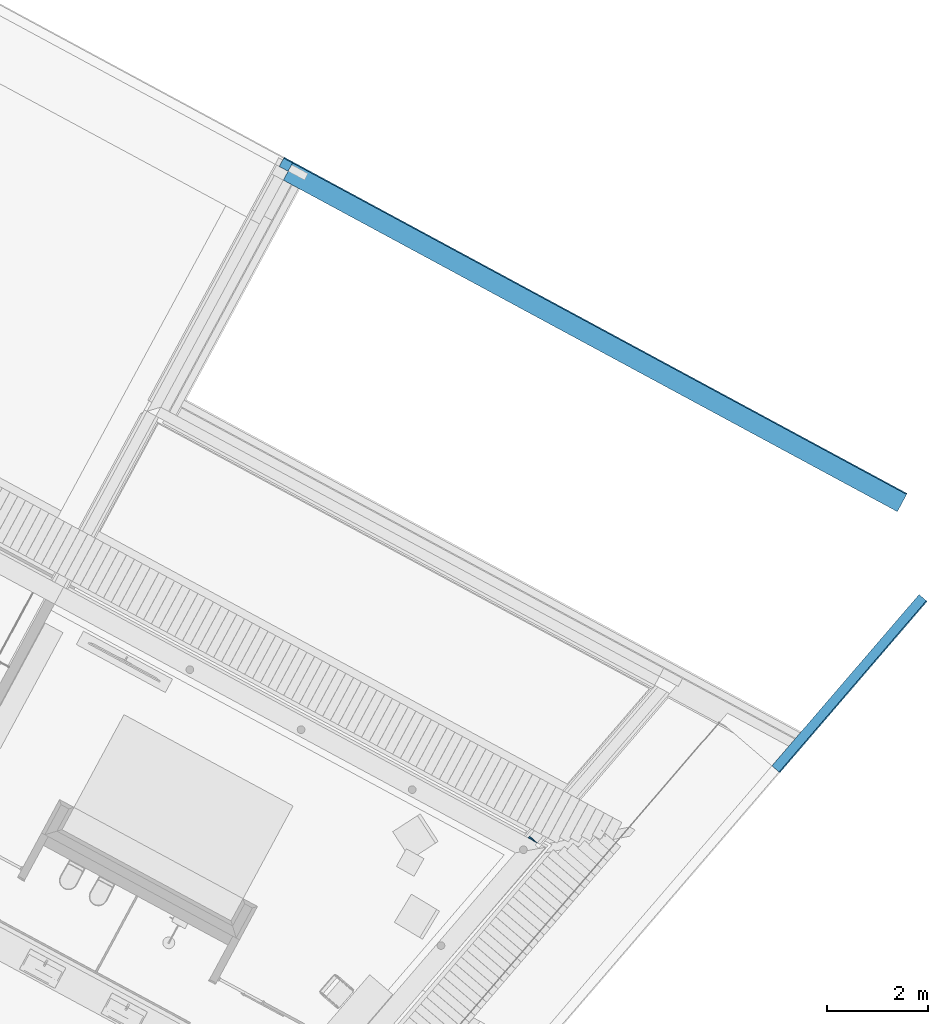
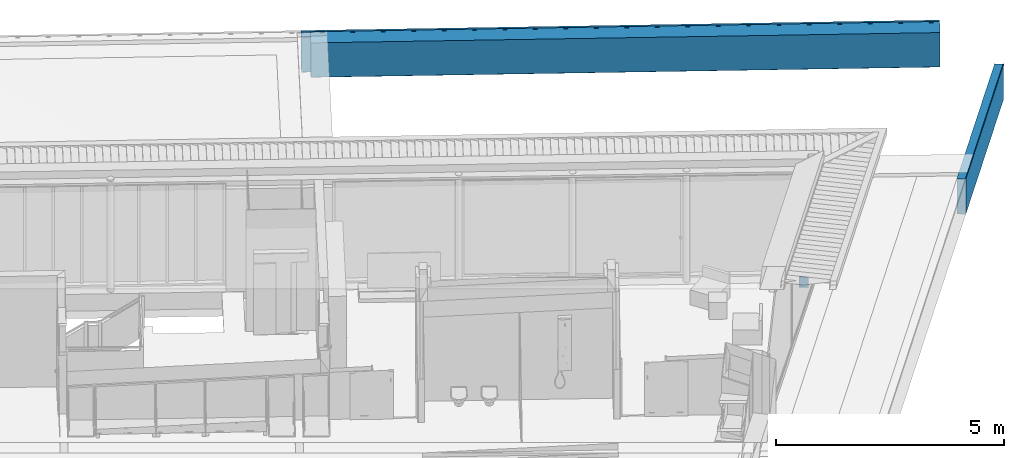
# One storey, part 2 of 41: 4 slabs.
"""IFC2X3 building model written with IfcOpenShell, lengths in metres."""

import ifcopenshell
import ifcopenshell.guid

model = None  # the IFC model being written
_history = None  # IfcOwnerHistory: only IFC2X3 demands one
_inside = {}  # id of a spatial element -> (the spatial element, [elements in it])
_under = {}  # id of a project, library or spatial element -> (it, [spatial elements below it])
_declared = {}  # id of a project -> (the project, [libraries it declares])
_typed = {}  # id of a type object -> (the type object, [elements of that type])
_made_of = {}  # id of a material, layer set ... -> (it, [elements and type objects made of it])


def new_model(schema):
    """Start an empty IFC model of exactly this schema.

    Asked for "IFC4X3", IfcOpenShell would pick the latest addendum, in which some entities
    have other attributes; the version numbers below select the first issue.
    IFC2X3 requires an IfcOwnerHistory on every rooted entity: one is made here for all.
    """
    global model, _history
    if schema == "IFC4X3":
        model = ifcopenshell.file(schema_version=(4, 3, 0, 0))
    else:
        model = ifcopenshell.file(schema=schema)
    _inside.clear()
    _under.clear()
    _declared.clear()
    _typed.clear()
    _made_of.clear()
    _history = None
    if model.schema == "IFC2X3":
        org = make("IfcOrganization", Name="unknown")
        user = make(
            "IfcPersonAndOrganization",
            ThePerson=make("IfcPerson", FamilyName="unknown"),
            TheOrganization=org,
        )
        app = make(
            "IfcApplication",
            ApplicationDeveloper=org,
            Version="unknown",
            ApplicationFullName="unknown",
            ApplicationIdentifier="unknown",
        )
        _history = make(
            "IfcOwnerHistory",
            OwningUser=user,
            OwningApplication=app,
            ChangeAction="ADDED",
            CreationDate=0,
        )
    return model


def make(cls, **values):
    """One entity of the class cls with the attributes given. An attribute that is None is left unset."""
    return model.create_entity(
        cls, **{name: value for name, value in values.items() if value is not None}
    )


def entity(cls, *values):
    """Any entity or typed value of the class cls, its attributes in the order of the schema. None: left unset."""
    e = model.create_entity(cls)
    for i, value in enumerate(values):
        if value is not None:
            e[i] = value
    return e


def rooted(cls, **values):
    """An entity with a GlobalId (a new one), such as an element, a storey or a relation."""
    return make(cls, GlobalId=ifcopenshell.guid.new(), OwnerHistory=_history, **values)


def si_unit(unit_type, name, prefix=None):
    """IfcSIUnit, for example si_unit("LENGTHUNIT", "METRE", prefix="MILLI")."""
    return make("IfcSIUnit", UnitType=unit_type, Prefix=prefix, Name=name)


def converted_unit(unit_type, name, factor, base, dimensions=None, offset=None):
    """IfcConversionBasedUnit, such as the inch: factor (a typed value) times the base unit."""
    return make(
        "IfcConversionBasedUnit"
        if offset is None
        else "IfcConversionBasedUnitWithOffset",
        ConversionOffset=offset,
        Dimensions=None
        if dimensions is None
        else entity("IfcDimensionalExponents", *dimensions),
        UnitType=unit_type,
        Name=name,
        ConversionFactor=make(
            "IfcMeasureWithUnit", ValueComponent=factor, UnitComponent=base
        ),
    )


def derived_unit(unit_type, elements):
    """IfcDerivedUnit: a product of units, each with its exponent."""
    return make(
        "IfcDerivedUnit",
        Elements=[
            make("IfcDerivedUnitElement", Unit=unit, Exponent=power)
            for unit, power in elements
        ],
        UnitType=unit_type,
    )


def money_unit(currency):
    """IfcMonetaryUnit."""
    return make("IfcMonetaryUnit", Currency=currency)


def assignment(units):
    """IfcUnitAssignment: the units of a project."""
    return None if units is None else make("IfcUnitAssignment", Units=units)


def point(xyz):
    """IfcCartesianPoint."""
    return None if xyz is None else make("IfcCartesianPoint", Coordinates=xyz)


def direction(xyz):
    """IfcDirection."""
    return None if xyz is None else make("IfcDirection", DirectionRatios=xyz)


def frame(location, z_axis=None, x_axis=None):
    """IfcAxis2Placement3D, a coordinate frame: its origin and axes. An axis left out is left unset."""
    return make(
        "IfcAxis2Placement3D",
        Location=point(location),
        Axis=direction(z_axis),
        RefDirection=direction(x_axis),
    )


def origin_with_axes():
    """The frame at (0, 0, 0) with the z axis (0, 0, 1) and the x axis (1, 0, 0) written out."""
    return frame((0.0, 0.0, 0.0), z_axis=(0.0, 0.0, 1.0), x_axis=(1.0, 0.0, 0.0))


def place(relative_to, where):
    """IfcLocalPlacement: puts the frame where relative to a parent placement (None: the world)."""
    return make(
        "IfcLocalPlacement", PlacementRelTo=relative_to, RelativePlacement=where
    )


def context(
    kind, dimensions, precision=None, world=None, true_north=None, identifier=None
):
    """IfcGeometricRepresentationContext, for example the 3D "Model" context."""
    return make(
        "IfcGeometricRepresentationContext",
        ContextIdentifier=identifier,
        ContextType=kind,
        CoordinateSpaceDimension=dimensions,
        Precision=precision,
        WorldCoordinateSystem=world,
        TrueNorth=true_north,
    )


def subcontext(parent, identifier, kind, view, scale=None):
    """IfcGeometricRepresentationSubContext, for example "Body" below "Model"."""
    return make(
        "IfcGeometricRepresentationSubContext",
        ContextIdentifier=identifier,
        ContextType=kind,
        ParentContext=parent,
        TargetScale=scale,
        TargetView=view,
    )


def project(units=None, contexts=None):
    """IfcProject with its units and contexts."""
    return rooted(
        "IfcProject",
        Name="project",
        RepresentationContexts=contexts,
        UnitsInContext=assignment(units),
    )


def spatial(cls, under=None, at=None, **own):
    """A site, building, storey or space (cls), placed at a placement, below another one or the project."""
    s = rooted(cls, ObjectPlacement=at, **own)
    if under is not None:
        _under.setdefault(under.id(), (under, []))[1].append(s)
    return s


def polyline(points):
    """IfcPolyline through the points."""
    return make("IfcPolyline", Points=[point(p) for p in points])


def outline(outer, holes=None, kind="AREA"):
    """IfcArbitraryClosedProfileDef: a profile drawn as a closed curve; with holes, ...WithVoids."""
    if holes is None:
        return make("IfcArbitraryClosedProfileDef", ProfileType=kind, OuterCurve=outer)
    return make(
        "IfcArbitraryProfileDefWithVoids",
        ProfileType=kind,
        OuterCurve=outer,
        InnerCurves=holes,
    )


def composite_profile(profiles, kind="AREA"):
    """IfcCompositeProfileDef: several profiles as one."""
    return make("IfcCompositeProfileDef", ProfileType=kind, Profiles=profiles)


def extrude(swept, where, along, depth):
    """IfcExtrudedAreaSolid: the profile swept, set in the frame where, extruded along a direction by depth."""
    return make(
        "IfcExtrudedAreaSolid",
        SweptArea=swept,
        Position=where,
        ExtrudedDirection=direction(along),
        Depth=depth,
    )


def shape(context_of_items, identifier, shape_type, items):
    """IfcShapeRepresentation: the items that make up one representation, for example the "Body"."""
    return make(
        "IfcShapeRepresentation",
        ContextOfItems=context_of_items,
        RepresentationIdentifier=identifier,
        RepresentationType=shape_type,
        Items=items,
    )


def material(Name=None, Category=None):
    """IfcMaterial."""
    return make("IfcMaterial", Name=Name, Category=Category)


def material_list(materials):
    """IfcMaterialList."""
    return make("IfcMaterialList", Materials=materials)


def made_of(thing, what):
    """Note that an element or type object is made of a material, layer set ...; save() writes the relation."""
    if what is not None:
        _made_of.setdefault(what.id(), (what, []))[1].append(thing)
    return thing


def type_object(cls, material=None, **own):
    """A type object (cls), such as IfcWallType, which elements share."""
    return made_of(rooted(cls, **own), material)


def element(
    cls,
    number,
    at=None,
    inside=None,
    cuts=None,
    type_object=None,
    material=None,
    context=None,
    identifier="Body",
    shape_type=None,
    held_by="IfcProductDefinitionShape",
    body=None,
    shapes=None,
    **own,
):
    """One element of the class cls, such as IfcWall. Its Tag is "e" and its number.

    at: its placement. inside: the storey or other place that contains it. cuts: it is an
    opening in that element (IfcRelVoidsElement). A single representation is given by context,
    identifier, shape_type and body (its items); several are given by shapes. held_by: the class
    of the entity that holds the representations. save() writes the other relations.
    """
    e = rooted(cls, Tag="e%d" % number, ObjectPlacement=at, **own)
    if body is not None:
        shapes = [shape(context, identifier, shape_type, body)]
    if shapes is not None:
        e.Representation = make(held_by, Representations=shapes)
    if inside is not None:
        _inside.setdefault(inside.id(), (inside, []))[1].append(e)
    if cuts is not None:
        rooted(
            "IfcRelVoidsElement", RelatingBuildingElement=cuts, RelatedOpeningElement=e
        )
    if type_object is not None:
        _typed.setdefault(type_object.id(), (type_object, []))[1].append(e)
    return made_of(e, material)


def aggregate(whole, parts):
    """IfcRelAggregates: a whole, such as a stair, and the parts it consists of."""
    return rooted("IfcRelAggregates", RelatingObject=whole, RelatedObjects=parts)


def save(model, path):
    """Write the relations noted so far, then the file.

    IfcRelAggregates (storeys below a building ...), IfcRelContainedInSpatialStructure (elements
    in a storey), IfcRelDefinesByType, IfcRelAssociatesMaterial and IfcRelDeclares: one each for
    every whole, place, type object, material and project.
    """
    for whole, parts in _under.values():
        aggregate(whole, parts)
    for where, things in _inside.values():
        rooted(
            "IfcRelContainedInSpatialStructure",
            RelatedElements=things,
            RelatingStructure=where,
        )
    for kind, things in _typed.values():
        rooted("IfcRelDefinesByType", RelatedObjects=things, RelatingType=kind)
    for what, things in _made_of.values():
        rooted("IfcRelAssociatesMaterial", RelatedObjects=things, RelatingMaterial=what)
    for by, libraries in _declared.values():
        rooted("IfcRelDeclares", RelatingContext=by, RelatedDefinitions=libraries)
    model.write(path)


model = new_model("IFC2X3")

# Units and contexts
model_context = context("Model", 3, precision=1e-05, world=origin_with_axes(), true_north=direction((0.0, 1.0)))
body_context = subcontext(model_context, "Body", "Model", "MODEL_VIEW")
ifc_project = project(units=[si_unit("LENGTHUNIT", "METRE"), si_unit("AREAUNIT", "SQUARE_METRE"), si_unit("VOLUMEUNIT", "CUBIC_METRE"), converted_unit("PLANEANGLEUNIT", "DEGREE", entity("IfcPlaneAngleMeasure", 0.0174532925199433), si_unit("PLANEANGLEUNIT", "RADIAN"), dimensions=[0, 0, 0, 0, 0, 0, 0]), money_unit("EUR"), converted_unit("TIMEUNIT", "Year", entity("IfcTimeMeasure", 31556926.0), si_unit("TIMEUNIT", "SECOND"), dimensions=[0, 0, 1, 0, 0, 0, 0]), si_unit("MASSUNIT", "GRAM", prefix="KILO"), si_unit("THERMODYNAMICTEMPERATUREUNIT", "DEGREE_CELSIUS"), si_unit("LUMINOUSINTENSITYUNIT", "LUMEN"), si_unit("ENERGYUNIT", "JOULE", prefix="MEGA"), derived_unit("THERMALCONDUCTANCEUNIT", [(si_unit("POWERUNIT", "WATT"), 1), (si_unit("LENGTHUNIT", "METRE"), -1), (si_unit("THERMODYNAMICTEMPERATUREUNIT", "KELVIN"), -1)]), derived_unit("SPECIFICHEATCAPACITYUNIT", [(si_unit("ENERGYUNIT", "JOULE"), 1), (si_unit("MASSUNIT", "GRAM", prefix="KILO"), -1), (si_unit("THERMODYNAMICTEMPERATUREUNIT", "KELVIN"), -1)]), derived_unit("MASSDENSITYUNIT", [(si_unit("MASSUNIT", "GRAM", prefix="KILO"), 1), (si_unit("VOLUMEUNIT", "CUBIC_METRE"), -1)])], contexts=[model_context])

# Site, building, storey
site_placement = place(None, frame((-3.949935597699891, 1.740105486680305, 0.0), z_axis=(0.0, 0.0, 1.0), x_axis=(0.8799804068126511, -0.475009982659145, 0.0)))
site = spatial("IfcSite", under=ifc_project, at=site_placement, Name="Gelände", CompositionType="ELEMENT")
building_placement = place(site_placement, origin_with_axes())
building = spatial("IfcBuilding", under=site, at=building_placement, Name="Gebäude", CompositionType="ELEMENT")
storey_placement = place(building_placement, frame((0.0, 0.0, 4.55), z_axis=(0.0, 0.0, 1.0), x_axis=(1.0, 0.0, 0.0)))
storey = spatial("IfcBuildingStorey", under=building, at=storey_placement, Name="Staffelgeschoss", CompositionType="ELEMENT", Elevation=4.55)

# Slabs
ifc_material_1 = material(Name="_SIWH - Beton, Stahlbeton")
slab_type_1 = type_object("IfcSlabType", Name="_SIWH - Beton, Stahlbeton Polygon", PredefinedType="FLOOR")
slab_1_placement = place(storey_placement, frame((27.81092993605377, 11.0378006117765, -0.3999999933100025), z_axis=(0.0, 0.0, 1.0), x_axis=(1.0, 0.0, 0.0)))
element("IfcSlab", 1, at=slab_1_placement, inside=storey, type_object=slab_type_1, material=ifc_material_1, Name="Wand-026", PredefinedType="FLOOR", context=body_context, shape_type="SweptSolid", body=[
    extrude(outline(polyline([(0.0, 0.0), (0.2047146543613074, 0.0), (0.009320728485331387, 0.04267568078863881), (0.00466036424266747, 0.0213378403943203), (0.0, 0.0)])), origin_with_axes(), (0.0, 0.0, 1.0), 0.2749999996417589),
])
ifc_material_2 = material(Name="_SIWH - Beton, Stahlbeton Fertigteil")
ifc_material_3 = material(Name="_SIWH - Metall, Aluminium")
ifc_material_list = material_list([ifc_material_2, ifc_material_3])
slab_type_2 = type_object("IfcSlabType", Name="_SIWH - Vordach+Arkade3 nur Luftbalken 210 x 980", PredefinedType="FLOOR")
slab_2_placement = place(storey_placement, frame((17.16747696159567, 19.20028216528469, -0.3999999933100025), z_axis=(0.0, 0.0, 1.0), x_axis=(1.0, 0.0, 0.0)))
element("IfcSlab", 2, at=slab_2_placement, inside=storey, type_object=slab_type_2, material=ifc_material_list, Name="Wand-024", PredefinedType="FLOOR", context=body_context, shape_type="SweptSolid", body=[
    extrude(composite_profile([outline(polyline([(1.385000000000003, -0.5700000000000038), (1.385000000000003, 0.3699875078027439), (1.185, 0.3599875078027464), (1.185, -0.5700000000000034), (1.194999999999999, -0.5800000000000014), (1.320000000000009, -0.5800000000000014), (1.335000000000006, -0.5650000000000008), (1.35, -0.5800000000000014), (1.374999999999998, -0.5800000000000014), (1.385000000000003, -0.5700000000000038)])), outline(polyline([(1.333152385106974, 0.3744038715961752), (1.333252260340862, 0.3724063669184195), (1.37404843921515, 0.3744461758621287), (1.393000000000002, 0.3948980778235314), (1.393000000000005, 0.3449999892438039), (1.395000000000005, 0.3449999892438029), (1.395000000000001, 0.3999999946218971), (1.373135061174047, 0.3764030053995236), (1.333152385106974, 0.3744038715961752)]))]), frame((0.0, 0.0, 0.0), z_axis=(1.0, 0.0, 0.0), x_axis=(0.0, 1.0, 0.0)), (0.0, 0.0, 1.0), 0.1999990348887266),
])
slab_3_placement = place(storey_placement, frame((31.17000734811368, 19.20028216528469, -0.3999999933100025), z_axis=(0.0, 0.0, 1.0), x_axis=(-0.213378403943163, -0.9769696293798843, 0.0)))
element("IfcSlab", 3, at=slab_3_placement, inside=storey, type_object=slab_type_2, material=ifc_material_list, Name="Wand-024", PredefinedType="FLOOR", context=body_context, shape_type="SweptSolid", body=[
    extrude(composite_profile([outline(polyline([(1.385000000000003, -0.5700000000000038), (1.385000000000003, 0.3699875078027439), (1.185, 0.3599875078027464), (1.185, -0.5700000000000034), (1.194999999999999, -0.5800000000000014), (1.320000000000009, -0.5800000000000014), (1.335000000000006, -0.5650000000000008), (1.35, -0.5800000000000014), (1.374999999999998, -0.5800000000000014), (1.385000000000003, -0.5700000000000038)])), outline(polyline([(1.333152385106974, 0.3744038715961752), (1.333252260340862, 0.3724063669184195), (1.37404843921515, 0.3744461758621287), (1.393000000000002, 0.3948980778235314), (1.393000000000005, 0.3449999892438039), (1.395000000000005, 0.3449999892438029), (1.395000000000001, 0.3999999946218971), (1.373135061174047, 0.3764030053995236), (1.333152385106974, 0.3744038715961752)]))]), frame((0.0, 0.0, 0.0), z_axis=(1.0, 0.0, 0.0), x_axis=(0.0, 1.0, 0.0)), (0.0, 0.0, 1.0), 4.468686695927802),
])
slab_type_3 = type_object("IfcSlabType", Name="_SIWH - Vordach Luftbalken2 410 x 980", PredefinedType="FLOOR")
slab_4_placement = place(storey_placement, frame((17.36747696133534, 19.20028216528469, -0.3999999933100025), z_axis=(0.0, 0.0, 1.0), x_axis=(1.0, 0.0, 0.0)))
element("IfcSlab", 4, at=slab_4_placement, inside=storey, type_object=slab_type_3, material=ifc_material_list, Name="Wand-024", PredefinedType="FLOOR", context=body_context, shape_type="SweptSolid", body=[
    extrude(composite_profile([outline(polyline([(0.9850000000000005, 0.3499874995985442), (0.9850000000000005, -0.369999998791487), (0.9850000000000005, -0.5700000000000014), (0.9950000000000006, -0.5800000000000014), (1.319999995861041, -0.5800000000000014), (1.335000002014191, -0.5649999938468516), (1.34999999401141, -0.5800000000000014), (1.37500000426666, -0.5800000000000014), (1.384999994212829, -0.5699999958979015), (1.384999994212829, 0.3699875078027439), (0.9850000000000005, 0.3499874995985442)])), outline(polyline([(1.333152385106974, 0.3744038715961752), (1.333252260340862, 0.3724063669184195), (1.37404843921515, 0.3744461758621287), (1.393000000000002, 0.3948980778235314), (1.393000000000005, 0.3449999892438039), (1.395000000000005, 0.3449999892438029), (1.395000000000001, 0.3999999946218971), (1.373135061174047, 0.3764030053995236), (1.333152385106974, 0.3744038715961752)]))]), frame((0.0, 0.0, 0.0), z_axis=(1.0, 0.0, 0.0), x_axis=(0.0, 1.0, 0.0)), (0.0, 0.0, 1.0), 13.80253038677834),
])

save(model, "model.ifc")
